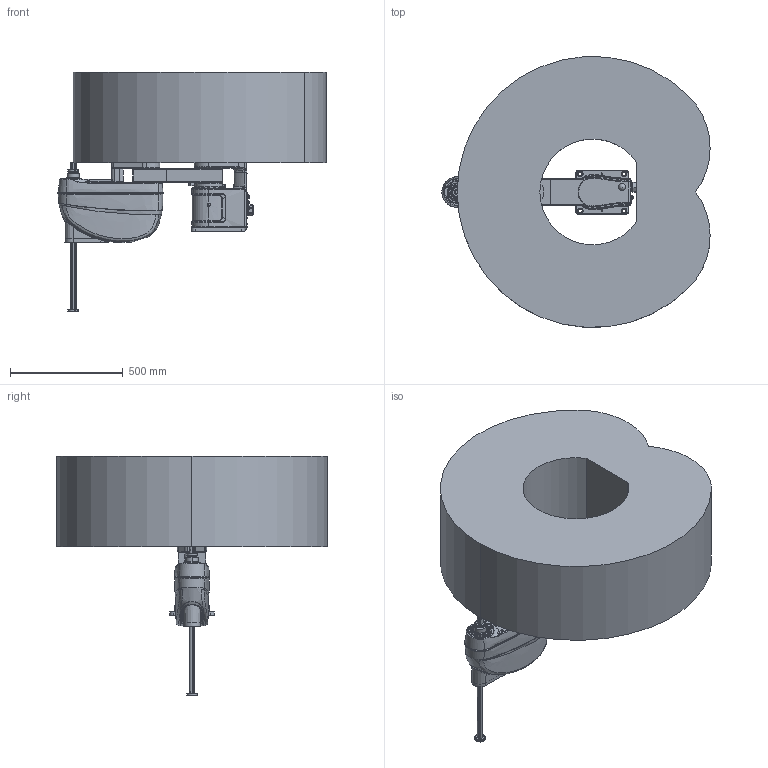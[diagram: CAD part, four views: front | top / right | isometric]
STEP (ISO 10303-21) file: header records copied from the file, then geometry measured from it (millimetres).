
FILE_DESCRIPTION (( 'STEP AP214' ), '1' );
FILE_NAME ('AIR12SC-600Z40A-OH-俋楷耀倰.STP', '2024-02-06T05:48:13', ( 'Windows User' ), ( 'P R C' ), 'SwSTEP 2.0', 'SolidWorks 2011', '' );
FILE_SCHEMA (( 'AUTOMOTIVE_DESIGN' ));
Length unit declared in the file: millimetre
Products named in the file (6): AIR12SC-600Z40A-OH-俋楷耀倰; AIR12SC-600Z40A-OH-Base; AIR12SC-600Z40A-OH-Upper-arm; AIR12SC-600Z40A-OH-Lower-arm; AIR12SC-600Z40A-OH-Screw spline; AIR12SC-600Z40A-OH-Working range
Assembly tree (5 placements, depth 2):
  AIR12SC-600Z40A-OH-俋楷耀倰
    AIR12SC-600Z40A-OH-Lower-arm
    AIR12SC-600Z40A-OH-Base
    AIR12SC-600Z40A-OH-Working range
    AIR12SC-600Z40A-OH-Upper-arm
    AIR12SC-600Z40A-OH-Screw spline
Bounding box: 1187.23 x 1198.11 x 1060 mm (x, y, z)
Volume: 395580722.6 mm3; surface area: 5362562.1 mm2
Topology: 55 solids, 63 shells, 4047 faces, 9936 edges, 6295 vertices
Faces by surface type: plane 1669, cylinder 1316, cone 593, bspline 278, torus 148, sphere 43
Entity records: 197392 total; most frequent: CARTESIAN_POINT 77415, DIRECTION 19816, ORIENTED_EDGE 19580, EDGE_CURVE 9790, AXIS2_PLACEMENT_3D 7524, VERTEX_POINT 6261, LINE 4768, VECTOR 4768
